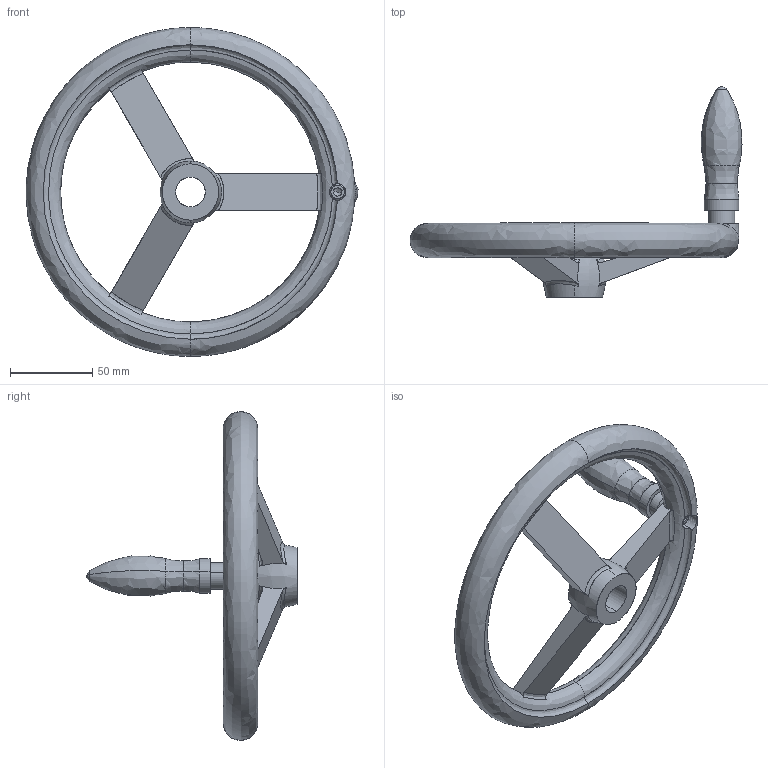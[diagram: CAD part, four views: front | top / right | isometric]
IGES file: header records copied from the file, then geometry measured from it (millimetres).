
Start section: SolidWorks IGES file using analytic representation for surfaces
Global section: file name: C:\Users\IanO\Desktop\Temp File\Process pending\77120_v2\77120_v2_20171108_IGES\77120.W0230.igs; native system: SolidWorks 2017; preprocessor: SolidWorks 2017; author: IanO; date: 171108.083401; units: millimetre
Bounding box: 201.88 x 128 x 200 mm (x, y, z)
Surface area: 65627 mm2 (no closed solid volume)
Topology: 0 solids, 0 shells, 132 faces, 1866 edges, 1859 vertices
Faces by surface type: bspline 74, revolution 58
